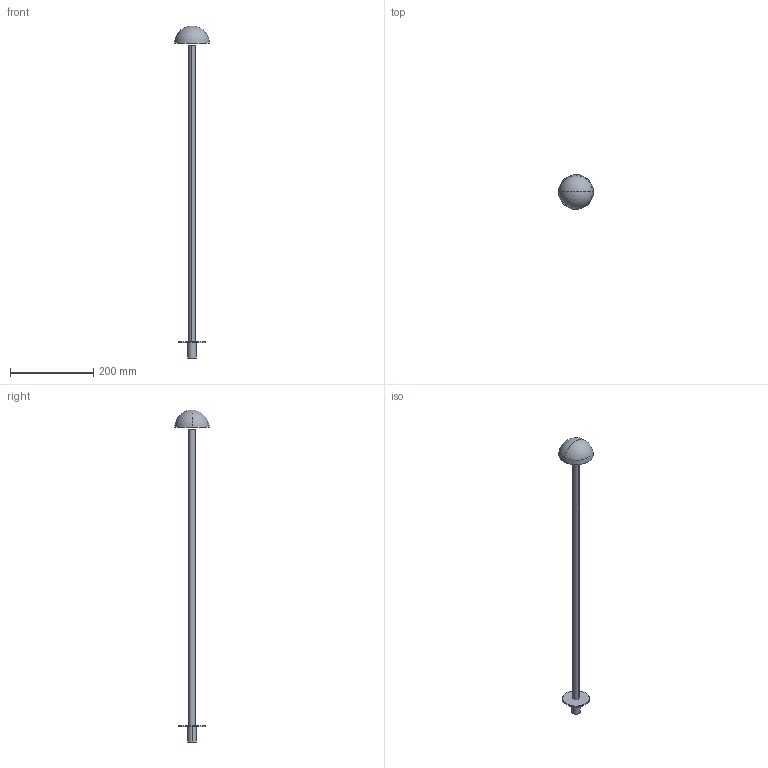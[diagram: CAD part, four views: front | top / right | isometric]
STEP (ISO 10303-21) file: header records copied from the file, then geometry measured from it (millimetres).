
FILE_DESCRIPTION((''),'2;1');
FILE_NAME('POD-750_SW0001','2026-02-12T08:52:13',('Manenti'),(''),'CREO PARAMETRIC BY PTC INC, 2025010','CREO PARAMETRIC BY PTC INC, 2025010','');
FILE_SCHEMA(('CONFIG_CONTROL_DESIGN'));
Length unit declared in the file: millimetre
Products named in the file (1): POD-750_SW0001
Bounding box: 82.99 x 82.99 x 796.5 mm (x, y, z)
Surface area: 68429.3 mm2 (no closed solid volume)
Topology: 0 solids, 8 shells, 14 faces, 42 edges, 33 vertices
Faces by surface type: cylinder 6, plane 6, sphere 2
Entity records: 512 total; most frequent: DIRECTION 102, CARTESIAN_POINT 87, ORIENTED_EDGE 52, AXIS2_PLACEMENT_3D 48, EDGE_CURVE 40, CIRCLE 34, VERTEX_POINT 33, EDGE_LOOP 14
